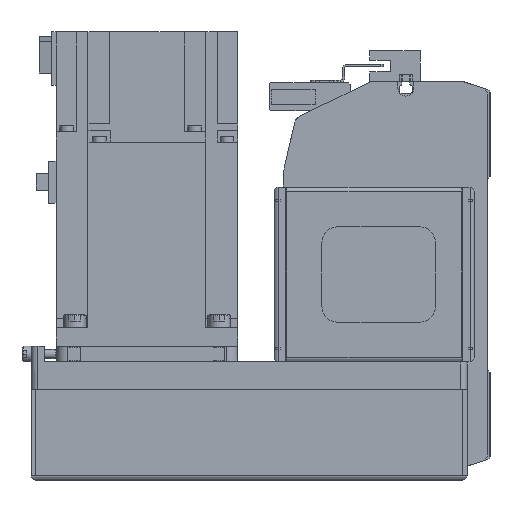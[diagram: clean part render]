
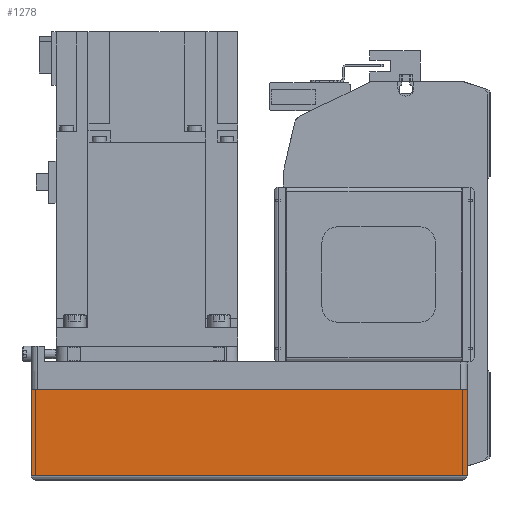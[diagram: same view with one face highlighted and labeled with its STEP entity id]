
A CAD part, left-side view. The second image highlights one B-rep face of the part: STEP entity #1278.
In plain terms, the highlighted planar face has unit normal (-1, 0, 0) as drawn and (0, -1, 0) by its records, which use the part's own axes.
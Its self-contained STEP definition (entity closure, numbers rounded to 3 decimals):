
#1278 = ADVANCED_FACE( '', ( #3506 ), #3507, .T. );
#3506 = FACE_OUTER_BOUND( '', #7062, .T. );
#3507 = PLANE( '', #7063 );
#7062 = EDGE_LOOP( '', ( #10755, #10756, #10757, #10758 ) );
#7063 = AXIS2_PLACEMENT_3D( '', #10759, #10760, #10761 );
#10755 = ORIENTED_EDGE( '', *, *, #20170, .F. );
#10756 = ORIENTED_EDGE( '', *, *, #20171, .F. );
#10757 = ORIENTED_EDGE( '', *, *, #20172, .T. );
#10758 = ORIENTED_EDGE( '', *, *, #20173, .T. );
#10759 = CARTESIAN_POINT( '', ( -192., -40., -12.1 ) );
#10760 = DIRECTION( '', ( 0., -1., 0. ) );
#10761 = DIRECTION( '', ( 0., 0., -1. ) );
#20170 = EDGE_CURVE( '', #23966, #23967, #23968, .T. );
#20171 = EDGE_CURVE( '', #23969, #23966, #23970, .T. );
#20172 = EDGE_CURVE( '', #23969, #23971, #23972, .T. );
#20173 = EDGE_CURVE( '', #23971, #23967, #23973, .T. );
#23966 = VERTEX_POINT( '', #29545 );
#23967 = VERTEX_POINT( '', #29546 );
#23968 = LINE( '', #29547, #29548 );
#23969 = VERTEX_POINT( '', #29549 );
#23970 = LINE( '', #29550, #29551 );
#23971 = VERTEX_POINT( '', #29552 );
#23972 = LINE( '', #29553, #29554 );
#23973 = LINE( '', #29555, #29556 );
#29545 = CARTESIAN_POINT( '', ( 0., -40., -12.1 ) );
#29546 = CARTESIAN_POINT( '', ( 0., -40., -50. ) );
#29547 = CARTESIAN_POINT( '', ( 0., -40., -12.1 ) );
#29548 = VECTOR( '', #37739, 1000. );
#29549 = CARTESIAN_POINT( '', ( -192., -40., -12.1 ) );
#29550 = CARTESIAN_POINT( '', ( -192., -40., -12.1 ) );
#29551 = VECTOR( '', #37740, 1000. );
#29552 = CARTESIAN_POINT( '', ( -192., -40., -50. ) );
#29553 = CARTESIAN_POINT( '', ( -192., -40., -12.1 ) );
#29554 = VECTOR( '', #37741, 1000. );
#29555 = CARTESIAN_POINT( '', ( -192., -40., -50. ) );
#29556 = VECTOR( '', #37742, 1000. );
#37739 = DIRECTION( '', ( 0., 0., -1. ) );
#37740 = DIRECTION( '', ( 1., 0., 0. ) );
#37741 = DIRECTION( '', ( 0., 0., -1. ) );
#37742 = DIRECTION( '', ( 1., 0., 0. ) );
